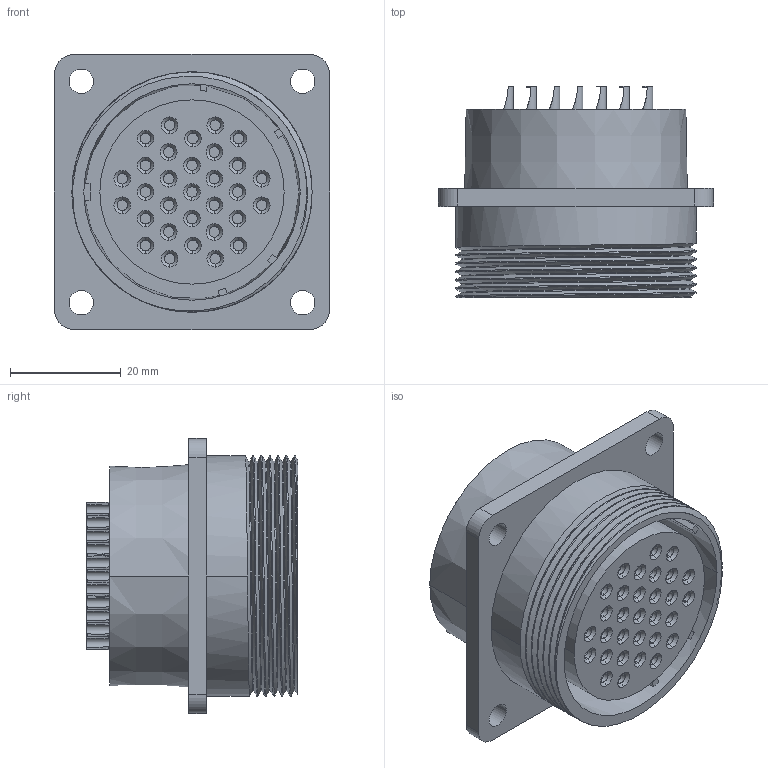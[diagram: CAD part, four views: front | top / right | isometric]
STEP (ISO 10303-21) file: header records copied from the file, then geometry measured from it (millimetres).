
FILE_DESCRIPTION((''),'2;1');
FILE_NAME('40XINGZUOJIAN','2018-03-06T',('Administrator'),(''),'PRO/ENGINEER BY PARAMETRIC TECHNOLOGY CORPORATION, 2015240','PRO/ENGINEER BY PARAMETRIC TECHNOLOGY CORPORATION, 2015240','');
FILE_SCHEMA(('CONFIG_CONTROL_DESIGN'));
Length unit declared in the file: millimetre
Products named in the file (1): 40XINGZUOJIAN
Bounding box: 49.7 x 38.2 x 49.7 mm (x, y, z)
Volume: 36738.8 mm3; surface area: 24815.8 mm2
Topology: 1 solids, 1 shells, 713 faces, 1788 edges, 1168 vertices
Faces by surface type: plane 348, cylinder 289, cone 70, bspline 6
Entity records: 24728 total; most frequent: CARTESIAN_POINT 7404, DIRECTION 3609, ORIENTED_EDGE 3576, EDGE_CURVE 1788, AXIS2_PLACEMENT_3D 1326, VERTEX_POINT 1168, VECTOR 957, LINE 957
